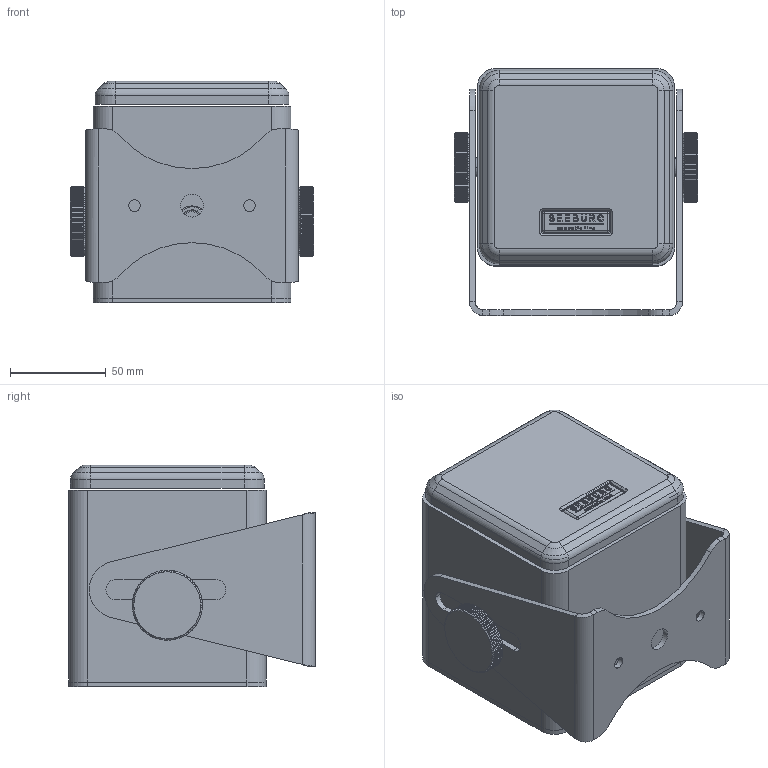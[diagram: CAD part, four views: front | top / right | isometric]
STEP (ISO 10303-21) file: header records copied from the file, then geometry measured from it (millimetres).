
FILE_DESCRIPTION (( 'STEP AP203' ), '1' );
FILE_NAME ('SEEBURG_i4.STEP', '2014-03-27T11:00:21', ( 'Michael Anter' ), ( 'SEEBURG acoustic line GmbH' ), 'SwSTEP 2.0', 'SolidWorks 2009', '' );
FILE_SCHEMA (( 'CONFIG_CONTROL_DESIGN' ));
Length unit declared in the file: millimetre
Products named in the file (8): SEEBURG_i4; AluProfil; Rückwand; Gitter; BügelAX4; Knurled Thin Thumb Screw_DIN_DIN 653 -A M10 x 20 --- 15.5ND; M10-Nietbuchse_MT; SEEBURG_Logo_neu_Klein
Assembly tree (10 placements, depth 2):
  SEEBURG_i4
    Knurled Thin Thumb Screw_DIN_DIN 653 -A M10 x 20 --- 15.5ND  x2
    AluProfil
    BügelAX4
    SEEBURG_Logo_neu_Klein
    M10-Nietbuchse_MT  x3
    Rückwand
    Gitter
Bounding box: 127 x 128.72 x 115.5 mm (x, y, z)
Volume: 302426.9 mm3; surface area: 181688.4 mm2
Topology: 32 solids, 32 shells, 1201 faces, 3238 edges, 2114 vertices
Faces by surface type: plane 635, cylinder 350, bspline 134, cone 56, torus 22, sphere 4
Entity records: 35239 total; most frequent: CARTESIAN_POINT 13383, ORIENTED_EDGE 4698, DIRECTION 3795, EDGE_CURVE 2349, VERTEX_POINT 1530, AXIS2_PLACEMENT_3D 1302, VECTOR 1191, LINE 1191
